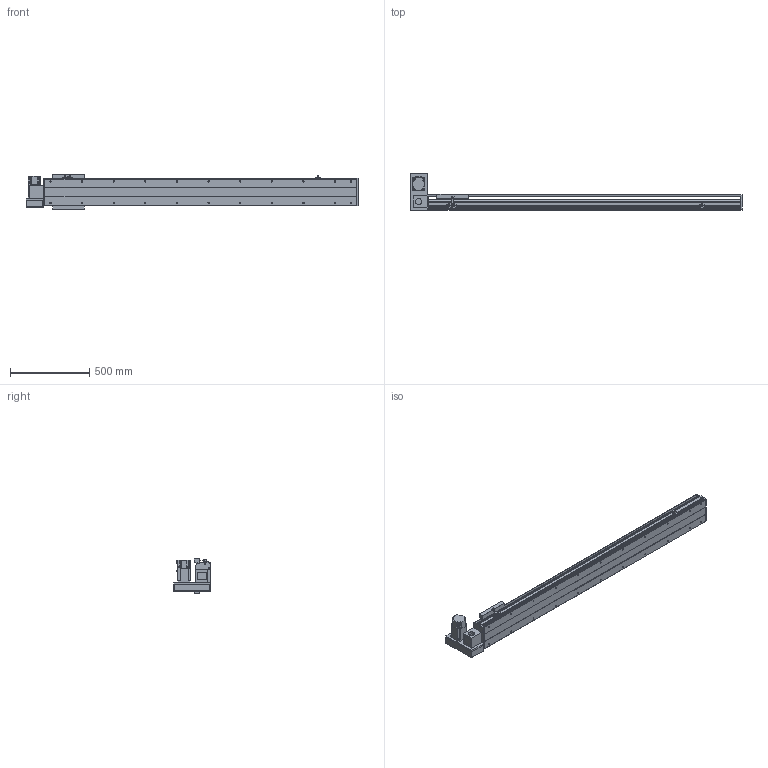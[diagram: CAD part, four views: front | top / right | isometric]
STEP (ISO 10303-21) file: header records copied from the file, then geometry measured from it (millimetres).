
FILE_DESCRIPTION(/* description */ ('STEP AP214'),/* implementation_level */ '2;1');
FILE_NAME(/* name */ 'PBS200-P40-S1600-LU-T75-C1-N(0)',/* time_stamp */ '2022-06-11T09:01:17+02:00',/* author */ ('License CC BY-ND 4.0'),/* organization */ ('CADENAS'),/* preprocessor_version */ 'ST-DEVELOPER v18.102',/* originating_system */ 'PARTsolutions',/* authorisation */ ' ');
FILE_SCHEMA (('AUTOMOTIVE_DESIGN {1 0 10303 214 3 1 1}'));
Length unit declared in the file: millimetre
Products named in the file (7): PBS200-P40-S1600-LU-T75-C1-N(0); PBS200_sensor; PBS200_plant; PBS200_sliser; T75-p1; PBS200T-LU_motors; PBS200-S1600()_body
Assembly tree (8 placements, depth 2):
  PBS200-P40-S1600-LU-T75-C1-N(0)
    PBS200_sensor  x3
    PBS200_plant
    PBS200_sliser
    T75-p1
    PBS200T-LU_motors
    PBS200-S1600()_body
Bounding box: 2100 x 231 x 221 mm (x, y, z)
Volume: 14983798.4 mm3; surface area: 2410350.9 mm2
Topology: 8 solids, 8 shells, 938 faces, 2404 edges, 1566 vertices
Faces by surface type: plane 580, cylinder 304, cone 54
Full cylindrical faces by diameter (mm): 2.459 x6, 3.242 x4, 4.5 x6, 4.917 x4, 5 x6, 6 x7, 6.6 x8, 6.647 x26, 8 x6, 10 x4, 12 x8, 38 x2, 40 x1, 70 x1
Entity records: 24941 total; most frequent: DIRECTION 4399, CARTESIAN_POINT 4246, ORIENTED_EDGE 4018, EDGE_CURVE 2009, AXIS2_PLACEMENT_3D 1543, VERTEX_POINT 1390, LINE 1313, VECTOR 1313
